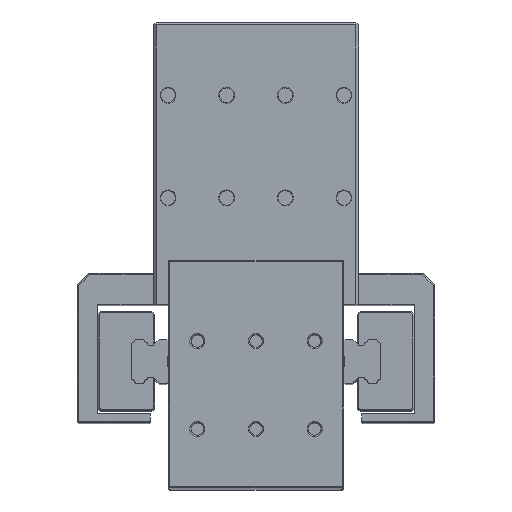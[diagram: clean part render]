
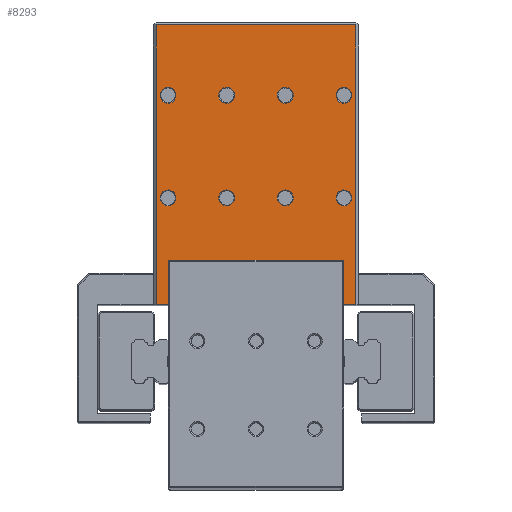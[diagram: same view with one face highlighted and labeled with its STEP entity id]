
A CAD part, top view. The second image highlights one B-rep face of the part: STEP entity #8293.
In plain terms, the highlighted planar face has unit normal (0, 0, 1).
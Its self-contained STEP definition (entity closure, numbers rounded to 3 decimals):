
#5574=DIRECTION('',(0.,1.,0.));
#5575=VECTOR('',#5574,95.5);
#5576=CARTESIAN_POINT('',(34.,0.,200.));
#5577=LINE('',#5576,#5575);
#5578=DIRECTION('',(1.,0.,0.));
#5579=VECTOR('',#5578,68.);
#5580=CARTESIAN_POINT('',(-34.,0.,200.));
#5581=LINE('',#5580,#5579);
#5582=DIRECTION('',(0.,-1.,0.));
#5583=VECTOR('',#5582,95.5);
#5584=CARTESIAN_POINT('',(-34.,95.5,200.));
#5585=LINE('',#5584,#5583);
#5586=DIRECTION('',(-1.,0.,0.));
#5587=VECTOR('',#5586,68.);
#5588=CARTESIAN_POINT('',(34.,95.5,200.));
#5589=LINE('',#5588,#5587);
#5590=CARTESIAN_POINT('',(30.,36.5,200.));
#5591=DIRECTION('',(0.,0.,-1.));
#5592=DIRECTION('',(-1.,0.,0.));
#5593=AXIS2_PLACEMENT_3D('',#5590,#5591,#5592);
#5595=CARTESIAN_POINT('',(30.,36.5,200.));
#5596=DIRECTION('',(0.,0.,-1.));
#5597=DIRECTION('',(1.,0.,0.));
#5598=AXIS2_PLACEMENT_3D('',#5595,#5596,#5597);
#5600=CARTESIAN_POINT('',(10.,36.5,200.));
#5601=DIRECTION('',(0.,0.,-1.));
#5602=DIRECTION('',(-1.,0.,0.));
#5603=AXIS2_PLACEMENT_3D('',#5600,#5601,#5602);
#5605=CARTESIAN_POINT('',(10.,36.5,200.));
#5606=DIRECTION('',(0.,0.,-1.));
#5607=DIRECTION('',(1.,0.,0.));
#5608=AXIS2_PLACEMENT_3D('',#5605,#5606,#5607);
#5610=CARTESIAN_POINT('',(-10.,36.5,200.));
#5611=DIRECTION('',(0.,0.,-1.));
#5612=DIRECTION('',(-1.,0.,0.));
#5613=AXIS2_PLACEMENT_3D('',#5610,#5611,#5612);
#5615=CARTESIAN_POINT('',(-10.,36.5,200.));
#5616=DIRECTION('',(0.,0.,-1.));
#5617=DIRECTION('',(1.,0.,0.));
#5618=AXIS2_PLACEMENT_3D('',#5615,#5616,#5617);
#5620=CARTESIAN_POINT('',(-30.,36.5,200.));
#5621=DIRECTION('',(0.,0.,-1.));
#5622=DIRECTION('',(1.,0.,0.));
#5623=AXIS2_PLACEMENT_3D('',#5620,#5621,#5622);
#5625=CARTESIAN_POINT('',(-30.,36.5,200.));
#5626=DIRECTION('',(0.,0.,-1.));
#5627=DIRECTION('',(-1.,0.,0.));
#5628=AXIS2_PLACEMENT_3D('',#5625,#5626,#5627);
#5630=CARTESIAN_POINT('',(-30.,71.5,200.));
#5631=DIRECTION('',(0.,0.,-1.));
#5632=DIRECTION('',(-1.,0.,0.));
#5633=AXIS2_PLACEMENT_3D('',#5630,#5631,#5632);
#5635=CARTESIAN_POINT('',(-30.,71.5,200.));
#5636=DIRECTION('',(0.,0.,-1.));
#5637=DIRECTION('',(1.,0.,0.));
#5638=AXIS2_PLACEMENT_3D('',#5635,#5636,#5637);
#5640=CARTESIAN_POINT('',(-10.,71.5,200.));
#5641=DIRECTION('',(0.,0.,-1.));
#5642=DIRECTION('',(-1.,0.,0.));
#5643=AXIS2_PLACEMENT_3D('',#5640,#5641,#5642);
#5645=CARTESIAN_POINT('',(-10.,71.5,200.));
#5646=DIRECTION('',(0.,0.,-1.));
#5647=DIRECTION('',(1.,0.,0.));
#5648=AXIS2_PLACEMENT_3D('',#5645,#5646,#5647);
#5650=CARTESIAN_POINT('',(10.,71.5,200.));
#5651=DIRECTION('',(0.,0.,-1.));
#5652=DIRECTION('',(-1.,0.,0.));
#5653=AXIS2_PLACEMENT_3D('',#5650,#5651,#5652);
#5655=CARTESIAN_POINT('',(10.,71.5,200.));
#5656=DIRECTION('',(0.,0.,-1.));
#5657=DIRECTION('',(1.,0.,0.));
#5658=AXIS2_PLACEMENT_3D('',#5655,#5656,#5657);
#5660=CARTESIAN_POINT('',(30.,71.5,200.));
#5661=DIRECTION('',(0.,0.,-1.));
#5662=DIRECTION('',(-1.,0.,0.));
#5663=AXIS2_PLACEMENT_3D('',#5660,#5661,#5662);
#5665=CARTESIAN_POINT('',(30.,71.5,200.));
#5666=DIRECTION('',(0.,0.,-1.));
#5667=DIRECTION('',(1.,0.,0.));
#5668=AXIS2_PLACEMENT_3D('',#5665,#5666,#5667);
#7365=CARTESIAN_POINT('',(34.,0.,200.));
#7367=VERTEX_POINT('',#7365);
#7368=CARTESIAN_POINT('',(34.,95.5,200.));
#7369=VERTEX_POINT('',#7368);
#7372=CARTESIAN_POINT('',(-34.,0.,200.));
#7374=VERTEX_POINT('',#7372);
#7378=CARTESIAN_POINT('',(-34.,95.5,200.));
#7379=VERTEX_POINT('',#7378);
#7660=CARTESIAN_POINT('',(27.3,36.5,200.));
#7661=CARTESIAN_POINT('',(32.7,36.5,200.));
#7662=VERTEX_POINT('',#7660);
#7663=VERTEX_POINT('',#7661);
#7668=CARTESIAN_POINT('',(7.3,36.5,200.));
#7669=CARTESIAN_POINT('',(12.7,36.5,200.));
#7670=VERTEX_POINT('',#7668);
#7671=VERTEX_POINT('',#7669);
#7676=CARTESIAN_POINT('',(-12.7,36.5,200.));
#7677=CARTESIAN_POINT('',(-7.3,36.5,200.));
#7678=VERTEX_POINT('',#7676);
#7679=VERTEX_POINT('',#7677);
#7684=CARTESIAN_POINT('',(-27.3,36.5,200.));
#7685=CARTESIAN_POINT('',(-32.7,36.5,200.));
#7686=VERTEX_POINT('',#7684);
#7687=VERTEX_POINT('',#7685);
#7692=CARTESIAN_POINT('',(-32.7,71.5,200.));
#7693=CARTESIAN_POINT('',(-27.3,71.5,200.));
#7694=VERTEX_POINT('',#7692);
#7695=VERTEX_POINT('',#7693);
#7700=CARTESIAN_POINT('',(-12.7,71.5,200.));
#7701=CARTESIAN_POINT('',(-7.3,71.5,200.));
#7702=VERTEX_POINT('',#7700);
#7703=VERTEX_POINT('',#7701);
#7708=CARTESIAN_POINT('',(7.3,71.5,200.));
#7709=CARTESIAN_POINT('',(12.7,71.5,200.));
#7710=VERTEX_POINT('',#7708);
#7711=VERTEX_POINT('',#7709);
#7716=CARTESIAN_POINT('',(27.3,71.5,200.));
#7717=CARTESIAN_POINT('',(32.7,71.5,200.));
#7718=VERTEX_POINT('',#7716);
#7719=VERTEX_POINT('',#7717);
#8232=CARTESIAN_POINT('',(0.,0.,200.));
#8233=DIRECTION('',(0.,0.,1.));
#8234=DIRECTION('',(1.,0.,0.));
#8235=AXIS2_PLACEMENT_3D('',#8232,#8233,#8234);
#8236=PLANE('',#8235);
#8238=ORIENTED_EDGE('',*,*,#8237,.F.);
#8239=ORIENTED_EDGE('',*,*,#8015,.F.);
#8241=ORIENTED_EDGE('',*,*,#8240,.F.);
#8242=ORIENTED_EDGE('',*,*,#8219,.F.);
#8243=EDGE_LOOP('',(#8238,#8239,#8241,#8242));
#8244=FACE_OUTER_BOUND('',#8243,.F.);
#8246=ORIENTED_EDGE('',*,*,#8245,.F.);
#8248=ORIENTED_EDGE('',*,*,#8247,.F.);
#8249=EDGE_LOOP('',(#8246,#8248));
#8250=FACE_BOUND('',#8249,.F.);
#8252=ORIENTED_EDGE('',*,*,#8251,.F.);
#8254=ORIENTED_EDGE('',*,*,#8253,.F.);
#8255=EDGE_LOOP('',(#8252,#8254));
#8256=FACE_BOUND('',#8255,.F.);
#8258=ORIENTED_EDGE('',*,*,#8257,.F.);
#8260=ORIENTED_EDGE('',*,*,#8259,.F.);
#8261=EDGE_LOOP('',(#8258,#8260));
#8262=FACE_BOUND('',#8261,.F.);
#8264=ORIENTED_EDGE('',*,*,#8263,.F.);
#8266=ORIENTED_EDGE('',*,*,#8265,.F.);
#8267=EDGE_LOOP('',(#8264,#8266));
#8268=FACE_BOUND('',#8267,.F.);
#8270=ORIENTED_EDGE('',*,*,#8269,.F.);
#8272=ORIENTED_EDGE('',*,*,#8271,.F.);
#8273=EDGE_LOOP('',(#8270,#8272));
#8274=FACE_BOUND('',#8273,.F.);
#8276=ORIENTED_EDGE('',*,*,#8275,.F.);
#8278=ORIENTED_EDGE('',*,*,#8277,.F.);
#8279=EDGE_LOOP('',(#8276,#8278));
#8280=FACE_BOUND('',#8279,.F.);
#8282=ORIENTED_EDGE('',*,*,#8281,.F.);
#8284=ORIENTED_EDGE('',*,*,#8283,.F.);
#8285=EDGE_LOOP('',(#8282,#8284));
#8286=FACE_BOUND('',#8285,.F.);
#8288=ORIENTED_EDGE('',*,*,#8287,.F.);
#8290=ORIENTED_EDGE('',*,*,#8289,.F.);
#8291=EDGE_LOOP('',(#8288,#8290));
#8292=FACE_BOUND('',#8291,.F.);
#5594=CIRCLE('',#5593,2.7);
#5599=CIRCLE('',#5598,2.7);
#5604=CIRCLE('',#5603,2.7);
#5609=CIRCLE('',#5608,2.7);
#5614=CIRCLE('',#5613,2.7);
#5619=CIRCLE('',#5618,2.7);
#5624=CIRCLE('',#5623,2.7);
#5629=CIRCLE('',#5628,2.7);
#5634=CIRCLE('',#5633,2.7);
#5639=CIRCLE('',#5638,2.7);
#5644=CIRCLE('',#5643,2.7);
#5649=CIRCLE('',#5648,2.7);
#5654=CIRCLE('',#5653,2.7);
#5659=CIRCLE('',#5658,2.7);
#5664=CIRCLE('',#5663,2.7);
#5669=CIRCLE('',#5668,2.7);
#8015=EDGE_CURVE('',#7374,#7367,#5581,.T.);
#8219=EDGE_CURVE('',#7369,#7379,#5589,.T.);
#8237=EDGE_CURVE('',#7367,#7369,#5577,.T.);
#8240=EDGE_CURVE('',#7379,#7374,#5585,.T.);
#8245=EDGE_CURVE('',#7662,#7663,#5594,.T.);
#8247=EDGE_CURVE('',#7663,#7662,#5599,.T.);
#8251=EDGE_CURVE('',#7670,#7671,#5604,.T.);
#8253=EDGE_CURVE('',#7671,#7670,#5609,.T.);
#8257=EDGE_CURVE('',#7678,#7679,#5614,.T.);
#8259=EDGE_CURVE('',#7679,#7678,#5619,.T.);
#8263=EDGE_CURVE('',#7686,#7687,#5624,.T.);
#8265=EDGE_CURVE('',#7687,#7686,#5629,.T.);
#8269=EDGE_CURVE('',#7694,#7695,#5634,.T.);
#8271=EDGE_CURVE('',#7695,#7694,#5639,.T.);
#8275=EDGE_CURVE('',#7702,#7703,#5644,.T.);
#8277=EDGE_CURVE('',#7703,#7702,#5649,.T.);
#8281=EDGE_CURVE('',#7710,#7711,#5654,.T.);
#8283=EDGE_CURVE('',#7711,#7710,#5659,.T.);
#8287=EDGE_CURVE('',#7718,#7719,#5664,.T.);
#8289=EDGE_CURVE('',#7719,#7718,#5669,.T.);
#8293=ADVANCED_FACE('',(#8244,#8250,#8256,#8262,#8268,#8274,#8280,#8286,#8292),
#8236,.T.);
